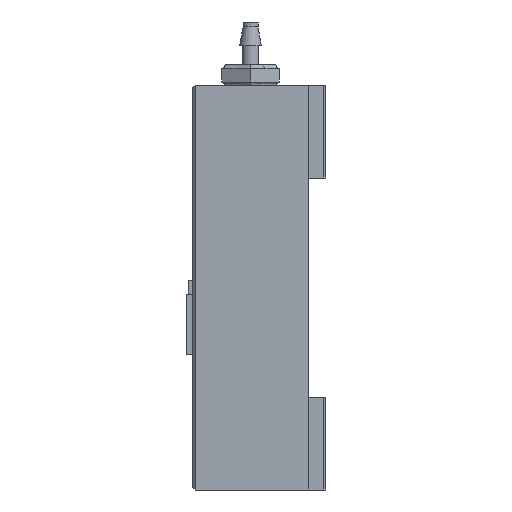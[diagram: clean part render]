
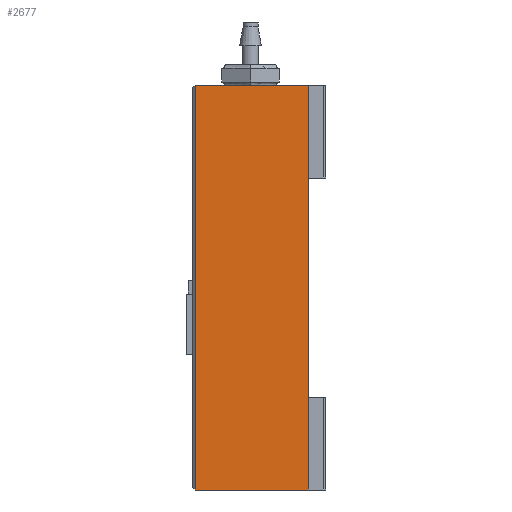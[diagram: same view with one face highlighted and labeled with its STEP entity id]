
A CAD part, left-side view. The second image highlights one B-rep face of the part: STEP entity #2677.
In plain terms, the highlighted planar face has unit normal (-1, 0, 0).
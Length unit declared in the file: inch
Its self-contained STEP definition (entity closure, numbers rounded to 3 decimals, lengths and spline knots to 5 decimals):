
#1013=CARTESIAN_POINT('',(-2.75,-0.5,0.875));
#1014=VERTEX_POINT('',#1013);
#1021=CARTESIAN_POINT('',(-2.75,-0.5,-0.875));
#1022=VERTEX_POINT('',#1021);
#1023=CARTESIAN_POINT('',(-2.75,-0.5,0.0125));
#1024=DIRECTION('',(-0.0,0.0,1.0));
#1025=VECTOR('',#1024,1.0);
#1026=LINE('',#1023,#1025);
#1027=EDGE_CURVE('',#1022,#1014,#1026,.T.);
#1433=CARTESIAN_POINT('',(-2.75,-0.01,-0.875));
#1434=VERTEX_POINT('',#1433);
#1472=CARTESIAN_POINT('',(-2.75,-0.1975,-0.875));
#1473=DIRECTION('',(0.0,-1.0,-0.0));
#1474=VECTOR('',#1473,1.0);
#1475=LINE('',#1472,#1474);
#1476=EDGE_CURVE('',#1434,#1022,#1475,.T.);
#2361=CARTESIAN_POINT('',(-2.75,-0.01,0.875));
#2362=VERTEX_POINT('',#2361);
#2399=CARTESIAN_POINT('',(-2.75,-0.01,0.0125));
#2400=DIRECTION('',(-0.0,0.0,1.0));
#2401=VECTOR('',#2400,1.0);
#2402=LINE('',#2399,#2401);
#2403=EDGE_CURVE('',#1434,#2362,#2402,.T.);
#2661=ORIENTED_EDGE('',*,*,#2403,.F.);
#2662=ORIENTED_EDGE('',*,*,#1476,.T.);
#2663=ORIENTED_EDGE('',*,*,#1027,.T.);
#2664=CARTESIAN_POINT('',(-2.75,-0.1975,0.875));
#2665=DIRECTION('',(-0.0,-1.0,0.0));
#2666=VECTOR('',#2665,1.0);
#2667=LINE('',#2664,#2666);
#2668=EDGE_CURVE('',#2362,#1014,#2667,.T.);
#2669=ORIENTED_EDGE('',*,*,#2668,.F.);
#2670=EDGE_LOOP('',(#2661,#2662,#2663,#2669));
#2671=FACE_OUTER_BOUND('',#2670,.T.);
#2672=CARTESIAN_POINT('',(-2.75,-0.1975,0.0125));
#2673=DIRECTION('',(1.0,0.0,0.0));
#2674=DIRECTION('',(0.0,-1.0,-0.0));
#2675=AXIS2_PLACEMENT_3D('',#2672,#2673,#2674);
#2676=PLANE('',#2675);
#2677=ADVANCED_FACE('',(#2671),#2676,.F.);
